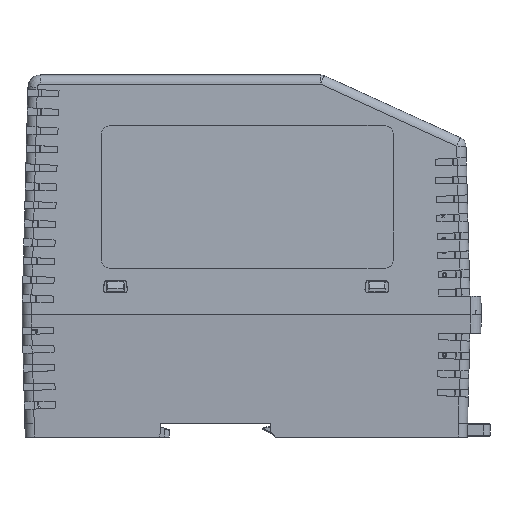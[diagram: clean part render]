
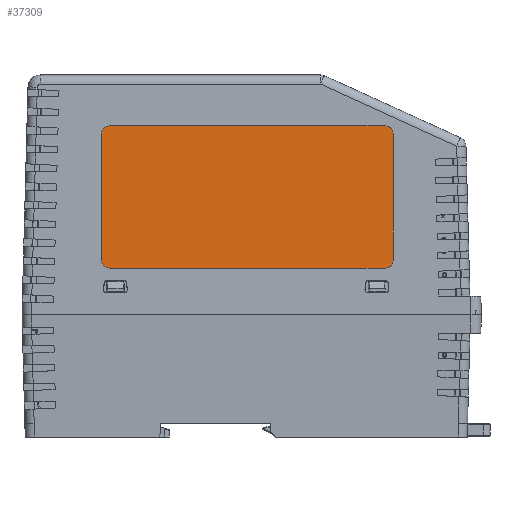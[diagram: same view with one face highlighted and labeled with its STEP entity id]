
A CAD part, left-side view. The second image highlights one B-rep face of the part: STEP entity #37309.
In plain terms, the highlighted planar face has unit normal (-1, 0, 0.026) as drawn and (1, 0, -0.026) by its records, which use the part's own axes.
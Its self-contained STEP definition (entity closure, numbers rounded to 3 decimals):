
#1277 = VERTEX_POINT ( 'NONE', #79176 ) ;
#10412 = CARTESIAN_POINT ( 'NONE',  ( 16.249, 43.532, 59.142 ) ) ;
#11323 = VECTOR ( 'NONE', #209313, 1000. ) ;
#13628 = VECTOR ( 'NONE', #195950, 1000. ) ;
#13944 = CARTESIAN_POINT ( 'NONE',  ( 16.249, 46.516, 59.142 ) ) ;
#22501 = DIRECTION ( 'NONE',  ( -0.026, 0., -1. ) ) ;
#24619 = DIRECTION ( 'NONE',  ( -1., 0., 0.026 ) ) ;
#31439 = VERTEX_POINT ( 'NONE', #85192 ) ;
#33615 = CIRCLE ( 'NONE', #147301, 2.984 ) ;
#35664 = EDGE_CURVE ( 'NONE', #149360, #166548, #213607, .T. ) ;
#37309 = ADVANCED_FACE ( 'NONE', ( #81367 ), #194743, .T. ) ;
#39251 = DIRECTION ( 'NONE',  ( -0.026, 0., -1. ) ) ;
#40201 = DIRECTION ( 'NONE',  ( 1., 0., -0.026 ) ) ;
#41428 = EDGE_CURVE ( 'NONE', #166548, #107350, #187959, .T. ) ;
#41478 = DIRECTION ( 'NONE',  ( 0., -1., 0. ) ) ;
#46317 = VERTEX_POINT ( 'NONE', #175240 ) ;
#47186 = DIRECTION ( 'NONE',  ( -0.026, 0., -1. ) ) ;
#55458 = CARTESIAN_POINT ( 'NONE',  ( 15.203, -44.268, 19.219 ) ) ;
#56621 = CARTESIAN_POINT ( 'NONE',  ( 15.125, 43.532, 16.236 ) ) ;
#57713 = CARTESIAN_POINT ( 'NONE',  ( 15.125, 43.532, 16.236 ) ) ;
#63499 = ORIENTED_EDGE ( 'NONE', *, *, #78174, .T. ) ;
#69445 = CARTESIAN_POINT ( 'NONE',  ( 16.249, 43.532, 59.142 ) ) ;
#72212 = EDGE_LOOP ( 'NONE', ( #73566, #63499, #162676, #196036, #80994, #137288, #131878, #196904 ) ) ;
#73566 = ORIENTED_EDGE ( 'NONE', *, *, #173743, .T. ) ;
#77117 = AXIS2_PLACEMENT_3D ( 'NONE', #55458, #188252, #39251 ) ;
#78174 = EDGE_CURVE ( 'NONE', #191272, #31439, #130102, .T. ) ;
#79176 = CARTESIAN_POINT ( 'NONE',  ( 15.203, -47.252, 19.219 ) ) ;
#80994 = ORIENTED_EDGE ( 'NONE', *, *, #211971, .T. ) ;
#81367 = FACE_OUTER_BOUND ( 'NONE', #72212, .T. ) ;
#82454 = CIRCLE ( 'NONE', #89381, 2.984 ) ;
#85192 = CARTESIAN_POINT ( 'NONE',  ( 16.327, -44.268, 62.126 ) ) ;
#89270 = DIRECTION ( 'NONE',  ( 1., 0., -0.026 ) ) ;
#89381 = AXIS2_PLACEMENT_3D ( 'NONE', #10412, #89270, #155058 ) ;
#89688 = VECTOR ( 'NONE', #47186, 1000. ) ;
#96883 = CARTESIAN_POINT ( 'NONE',  ( 16.327, 43.532, 62.126 ) ) ;
#98407 = VECTOR ( 'NONE', #41478, 1000. ) ;
#107350 = VERTEX_POINT ( 'NONE', #57713 ) ;
#121832 = EDGE_CURVE ( 'NONE', #31439, #161210, #33615, .T. ) ;
#125550 = CIRCLE ( 'NONE', #77117, 2.984 ) ;
#130102 = LINE ( 'NONE', #144125, #13628 ) ;
#131878 = ORIENTED_EDGE ( 'NONE', *, *, #41428, .F. ) ;
#137288 = ORIENTED_EDGE ( 'NONE', *, *, #164346, .F. ) ;
#138026 = CARTESIAN_POINT ( 'NONE',  ( 15.203, 43.532, 19.219 ) ) ;
#144125 = CARTESIAN_POINT ( 'NONE',  ( 16.327, 43.532, 62.126 ) ) ;
#145411 = LINE ( 'NONE', #211260, #89688 ) ;
#147301 = AXIS2_PLACEMENT_3D ( 'NONE', #175034, #209535, #177136 ) ;
#149360 = VERTEX_POINT ( 'NONE', #13944 ) ;
#153405 = CARTESIAN_POINT ( 'NONE',  ( 15.203, 46.516, 19.219 ) ) ;
#155058 = DIRECTION ( 'NONE',  ( -0.026, 0., -1. ) ) ;
#156298 = AXIS2_PLACEMENT_3D ( 'NONE', #69445, #40201, #183851 ) ;
#161210 = VERTEX_POINT ( 'NONE', #209157 ) ;
#162676 = ORIENTED_EDGE ( 'NONE', *, *, #121832, .T. ) ;
#163778 = AXIS2_PLACEMENT_3D ( 'NONE', #138026, #24619, #22501 ) ;
#164346 = EDGE_CURVE ( 'NONE', #107350, #46317, #208767, .T. ) ;
#166548 = VERTEX_POINT ( 'NONE', #153405 ) ;
#173743 = EDGE_CURVE ( 'NONE', #149360, #191272, #82454, .T. ) ;
#175034 = CARTESIAN_POINT ( 'NONE',  ( 16.249, -44.268, 59.142 ) ) ;
#175240 = CARTESIAN_POINT ( 'NONE',  ( 15.125, -44.268, 16.236 ) ) ;
#175821 = CARTESIAN_POINT ( 'NONE',  ( 16.249, 46.516, 59.142 ) ) ;
#177136 = DIRECTION ( 'NONE',  ( -0.026, 0., -1. ) ) ;
#181017 = EDGE_CURVE ( 'NONE', #161210, #1277, #145411, .T. ) ;
#183851 = DIRECTION ( 'NONE',  ( -0.026, 0., -1. ) ) ;
#187959 = CIRCLE ( 'NONE', #163778, 2.984 ) ;
#188252 = DIRECTION ( 'NONE',  ( 1., 0., -0.026 ) ) ;
#191272 = VERTEX_POINT ( 'NONE', #96883 ) ;
#194743 = PLANE ( 'NONE',  #156298 ) ;
#195950 = DIRECTION ( 'NONE',  ( 0., -1., 0. ) ) ;
#196036 = ORIENTED_EDGE ( 'NONE', *, *, #181017, .T. ) ;
#196904 = ORIENTED_EDGE ( 'NONE', *, *, #35664, .F. ) ;
#208767 = LINE ( 'NONE', #56621, #98407 ) ;
#209157 = CARTESIAN_POINT ( 'NONE',  ( 16.249, -47.252, 59.142 ) ) ;
#209313 = DIRECTION ( 'NONE',  ( -0.026, 0., -1. ) ) ;
#209535 = DIRECTION ( 'NONE',  ( 1., 0., -0.026 ) ) ;
#211260 = CARTESIAN_POINT ( 'NONE',  ( 16.249, -47.252, 59.142 ) ) ;
#211971 = EDGE_CURVE ( 'NONE', #1277, #46317, #125550, .T. ) ;
#213607 = LINE ( 'NONE', #175821, #11323 ) ;
